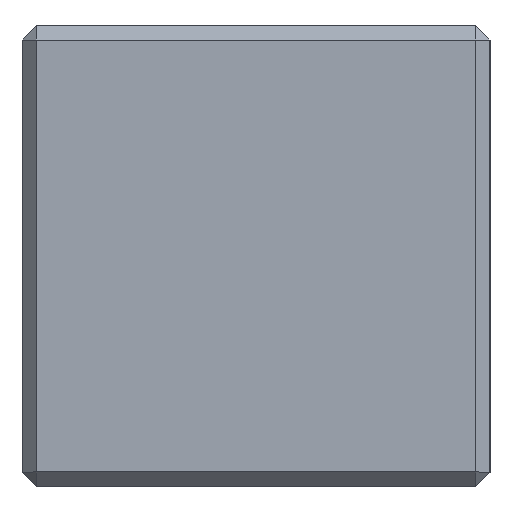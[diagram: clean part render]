
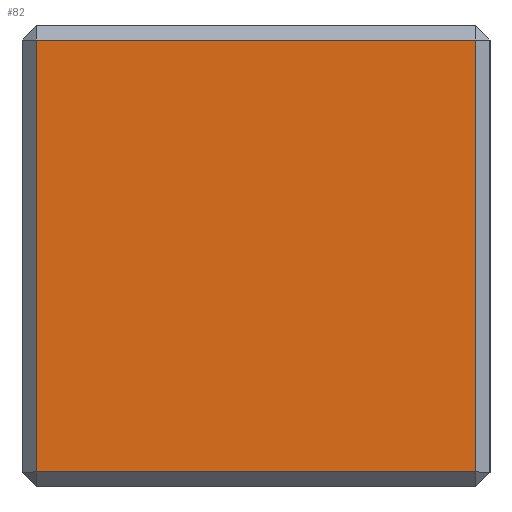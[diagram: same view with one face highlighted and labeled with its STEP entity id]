
A CAD part, left-side view. The second image highlights one B-rep face of the part: STEP entity #82.
In plain terms, the highlighted planar face has unit normal (-1, 0, 0).
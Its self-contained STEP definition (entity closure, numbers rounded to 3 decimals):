
#65 = VERTEX_POINT ( 'NONE', #342 ) ;
#67 = ORIENTED_EDGE ( 'NONE', *, *, #84, .T. ) ;
#68 = VERTEX_POINT ( 'NONE', #341 ) ;
#74 = EDGE_LOOP ( 'NONE', ( #148, #67, #144, #143 ) ) ;
#79 = EDGE_CURVE ( 'NONE', #65, #83, #383, .T. ) ;
#80 = VERTEX_POINT ( 'NONE', #379 ) ;
#82 = ADVANCED_FACE ( 'NONE', ( #378 ), #377, .F. ) ;
#83 = VERTEX_POINT ( 'NONE', #372 ) ;
#84 = EDGE_CURVE ( 'NONE', #83, #80, #371, .T. ) ;
#139 = EDGE_CURVE ( 'NONE', #68, #65, #513, .T. ) ;
#143 = ORIENTED_EDGE ( 'NONE', *, *, #139, .T. ) ;
#144 = ORIENTED_EDGE ( 'NONE', *, *, #145, .T. ) ;
#145 = EDGE_CURVE ( 'NONE', #80, #68, #503, .T. ) ;
#148 = ORIENTED_EDGE ( 'NONE', *, *, #79, .T. ) ;
#341 = CARTESIAN_POINT ( 'NONE',  ( -24., 19., 15. ) ) ;
#342 = CARTESIAN_POINT ( 'NONE',  ( -24., 19., -15. ) ) ;
#368 = DIRECTION ( 'NONE',  ( 0., 0., 1. ) ) ;
#369 = VECTOR ( 'NONE', #368, 1000. ) ;
#370 = CARTESIAN_POINT ( 'NONE',  ( -24., -11.5, 16. ) ) ;
#371 = LINE ( 'NONE', #370, #369 ) ;
#372 = CARTESIAN_POINT ( 'NONE',  ( -24., -11.5, -15. ) ) ;
#373 = DIRECTION ( 'NONE',  ( 0., 1., 0. ) ) ;
#374 = DIRECTION ( 'NONE',  ( 1., 0., 0. ) ) ;
#375 = CARTESIAN_POINT ( 'NONE',  ( -24., 20., 16. ) ) ;
#376 = AXIS2_PLACEMENT_3D ( 'NONE', #375, #374, #373 ) ;
#377 = PLANE ( 'NONE',  #376 ) ;
#378 = FACE_OUTER_BOUND ( 'NONE', #74, .T. ) ;
#379 = CARTESIAN_POINT ( 'NONE',  ( -24., -11.5, 15. ) ) ;
#380 = DIRECTION ( 'NONE',  ( 0., -1., 0. ) ) ;
#381 = VECTOR ( 'NONE', #380, 1000. ) ;
#382 = CARTESIAN_POINT ( 'NONE',  ( -24., 20., -15. ) ) ;
#383 = LINE ( 'NONE', #382, #381 ) ;
#500 = DIRECTION ( 'NONE',  ( 0., 1., 0. ) ) ;
#501 = VECTOR ( 'NONE', #500, 1000. ) ;
#502 = CARTESIAN_POINT ( 'NONE',  ( -24., 20., 15. ) ) ;
#503 = LINE ( 'NONE', #502, #501 ) ;
#510 = DIRECTION ( 'NONE',  ( 0., 0., -1. ) ) ;
#511 = VECTOR ( 'NONE', #510, 1000. ) ;
#512 = CARTESIAN_POINT ( 'NONE',  ( -24., 19., 16. ) ) ;
#513 = LINE ( 'NONE', #512, #511 ) ;
